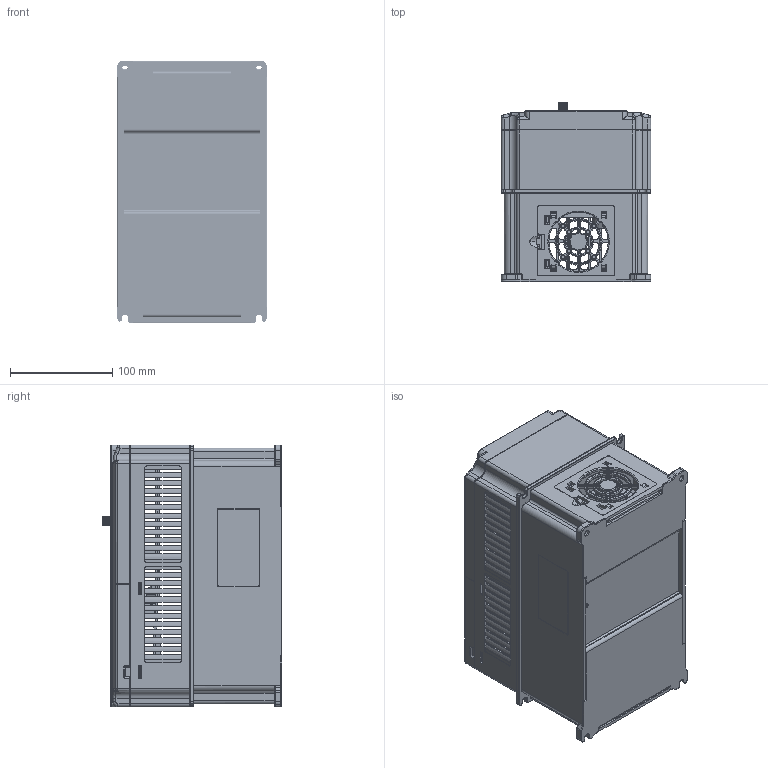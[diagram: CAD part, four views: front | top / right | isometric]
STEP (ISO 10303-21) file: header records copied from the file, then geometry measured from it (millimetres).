
FILE_DESCRIPTION (( 'STEP AP203' ), '1' );
FILE_NAME ('GD20-5R5G-4.STEP', '2020-03-25T15:41:16', ( '' ), ( '' ), 'SwSTEP 2.0', 'SolidWorks 2017', '' );
FILE_SCHEMA (( 'CONFIG_CONTROL_DESIGN' ));
Length unit declared in the file: millimetre
Products named in the file (28): PRT009; ASM_002; PRT012; PRT002; PRT001; PRT006; PRT011; ASM_001; PRT005; PRT007; GD20-5R5G-4; PRT004; PRT008; PRT003; PRT010
Assembly tree (15 placements, depth 3):
  PRT012
  PRT009
  PRT001
  PRT005
  PRT007
Bounding box: 146 x 175.35 x 256 mm (x, y, z)
Volume: 330170.2 mm3; surface area: 667654 mm2
Topology: 9 solids, 13 shells, 6327 faces, 18186 edges, 11786 vertices
Faces by surface type: plane 3908, cylinder 1644, bspline 546, cone 217, torus 12
Entity records: 238820 total; most frequent: CARTESIAN_POINT 77709, ORIENTED_EDGE 35600, DIRECTION 29561, EDGE_CURVE 17904, LINE 12355, VECTOR 12355, VERTEX_POINT 11628, AXIS2_PLACEMENT_3D 8603
